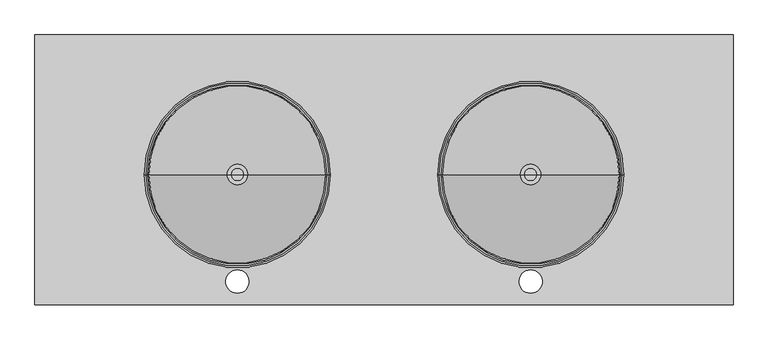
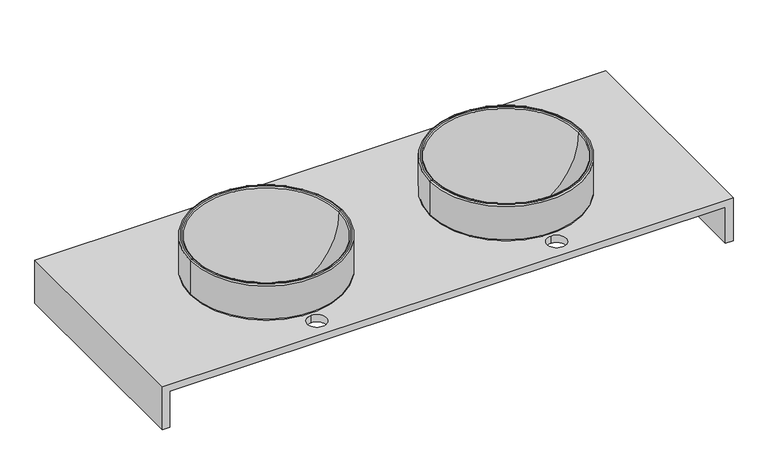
"""IFC4 building model written with IfcOpenShell, lengths in millimetres: flow terminal geometry, CUBIERTA BAÑO : CUBIERTA BAÑO 150CM."""

from ifc_helpers import new_model, si_unit, point, frame, origin, place, context, project, spatial, polyline, circle_curve, ellipse_curve, trimmed, source, transform, mapped, element, save
from ifc_brep_helpers import plane_surface, cylinder_surface, revolved_surface, advanced_brep


def flow_terminal_ff75b144(model_context):
    return source(origin(), model_context, "Body", "AdvancedBrep", [
        advanced_brep(
        [(559.7003264, 280.0, 755.0254698), (554.6748566, 280.0, 750.0), (164.7257963, 280.0, 750.0), (159.7003264, 280.0, 755.0254698), (559.7003264, 280.0, 847.1369003), (159.7003264, 280.0, 847.1369003), (556.5666099, 280.0, 850.2706168), (162.834043, 280.0, 850.2706168), (552.8264261, 280.0, 850.2706168), (166.5742268, 280.0, 850.2706168), (549.9406449, 280.0, 847.3848356), (169.460008, 280.0, 847.3848356), (376.6370457, 280.0, 659.6971154), (342.7636072, 280.0, 659.6971154), (376.6370457, 280.0, 649.6794237), (342.7636072, 280.0, 649.6794237), (549.6748566, 280.0, 781.4886928), (169.7257963, 280.0, 781.4886928), (549.6748566, 280.0, 750.0), (169.7257963, 280.0, 750.0)],
        [
            (0, 1, circle_curve(frame((554.6748566, 280.0, 755.0254698), z_axis=(0.0, 1.0, 0.0), x_axis=(1.0, 0.0, 0.0)), 5.0254698)),
            (1, 2, circle_curve(frame((359.7003264, 280.0, 750.0), z_axis=(0.0, 0.0, 1.0), x_axis=(-1.0, 0.0, 0.0)), 194.9745302)),
            (2, 3, circle_curve(frame((164.7257963, 280.0, 755.0254698), z_axis=(0.0, 1.0, 0.0), x_axis=(-1.0, 0.0, 0.0)), 5.0254698)),
            (3, 0, circle_curve(frame((359.7003264, 280.0, 755.0254698), z_axis=(0.0, 0.0, -1.0), x_axis=(-1.0, 0.0, 0.0)), 200.0)),
            (2, 1, circle_curve(frame((359.7003264, 280.0, 750.0), z_axis=(0.0, 0.0, 1.0), x_axis=(-1.0, 0.0, 0.0)), 194.9745302)),
            (0, 3, circle_curve(frame((359.7003264, 280.0, 755.0254698), z_axis=(0.0, 0.0, -1.0), x_axis=(-1.0, 0.0, 0.0)), 200.0)),
            (4, 0),
            (3, 5),
            (5, 4, circle_curve(frame((359.7003264, 280.0, 847.1369003), z_axis=(0.0, 0.0, -1.0), x_axis=(-1.0, 0.0, 0.0)), 200.0)),
            (4, 5, circle_curve(frame((359.7003264, 280.0, 847.1369003), z_axis=(0.0, 0.0, -1.0), x_axis=(-1.0, 0.0, 0.0)), 200.0)),
            (6, 4, circle_curve(frame((556.5666099, 280.0, 847.1369003), z_axis=(0.0, 1.0, 0.0), x_axis=(1.0, 0.0, 0.0)), 3.1337165)),
            (5, 7, circle_curve(frame((162.834043, 280.0, 847.1369003), z_axis=(0.0, 1.0, 0.0), x_axis=(-1.0, 0.0, 0.0)), 3.1337165)),
            (7, 6, circle_curve(frame((359.7003264, 280.0, 850.2706168), z_axis=(0.0, 0.0, -1.0), x_axis=(-1.0, 0.0, 0.0)), 196.8662835)),
            (6, 7, circle_curve(frame((359.7003264, 280.0, 850.2706168), z_axis=(0.0, 0.0, -1.0), x_axis=(-1.0, 0.0, 0.0)), 196.8662835)),
            (8, 6),
            (7, 9),
            (9, 8, circle_curve(frame((359.7003264, 280.0, 850.2706168), z_axis=(0.0, 0.0, -1.0), x_axis=(-1.0, 0.0, 0.0)), 193.1260997)),
            (8, 9, circle_curve(frame((359.7003264, 280.0, 850.2706168), z_axis=(0.0, 0.0, -1.0), x_axis=(-1.0, 0.0, 0.0)), 193.1260997)),
            (10, 8, circle_curve(frame((552.8264261, 280.0, 847.3848356), z_axis=(0.0, 1.0, 0.0), x_axis=(1.0, 0.0, 0.0)), 2.8857812)),
            (9, 11, circle_curve(frame((166.5742268, 280.0, 847.3848356), z_axis=(0.0, 1.0, 0.0), x_axis=(-1.0, 0.0, 0.0)), 2.8857812)),
            (11, 10, circle_curve(frame((359.7003264, 280.0, 847.3848356), z_axis=(0.0, 0.0, -1.0), x_axis=(-1.0, 0.0, 0.0)), 190.2403184)),
            (10, 11, circle_curve(frame((359.7003264, 280.0, 847.3848356), z_axis=(0.0, 0.0, -1.0), x_axis=(-1.0, 0.0, 0.0)), 190.2403184)),
            (12, 10, circle_curve(frame((365.3724623, 280.0, 843.9531856), z_axis=(0.0, -1.0, 0.0), x_axis=(1.0, 0.0, 0.0)), 184.6000819)),
            (11, 13, circle_curve(frame((354.0281906, 280.0, 843.9531856), z_axis=(0.0, -1.0, 0.0), x_axis=(-1.0, 0.0, 0.0)), 184.6000819)),
            (13, 12, circle_curve(frame((359.7003264, 280.0, 659.6971154), z_axis=(0.0, 0.0, -1.0), x_axis=(-1.0, 0.0, 0.0)), 16.9367193)),
            (12, 13, circle_curve(frame((359.7003264, 280.0, 659.6971154), z_axis=(0.0, 0.0, -1.0), x_axis=(-1.0, 0.0, 0.0)), 16.9367193)),
            (14, 12),
            (13, 15),
            (15, 14, circle_curve(frame((359.7003264, 280.0, 649.6794237), z_axis=(0.0, 0.0, -1.0), x_axis=(-1.0, 0.0, 0.0)), 16.9367193)),
            (14, 15, circle_curve(frame((359.7003264, 280.0, 649.6794237), z_axis=(0.0, 0.0, -1.0), x_axis=(-1.0, 0.0, 0.0)), 16.9367193)),
            (16, 14, circle_curve(frame((365.3724623, 280.0, 843.9531856), z_axis=(0.0, 1.0, 0.0), x_axis=(1.0, 0.0, 0.0)), 194.6000653)),
            (15, 17, circle_curve(frame((354.0281906, 280.0, 843.9531856), z_axis=(0.0, 1.0, 0.0), x_axis=(-1.0, 0.0, 0.0)), 194.6000653)),
            (17, 16, circle_curve(frame((359.7003264, 280.0, 781.4886928), z_axis=(0.0, 0.0, -1.0), x_axis=(-1.0, 0.0, 0.0)), 189.9745302)),
            (16, 17, circle_curve(frame((359.7003264, 280.0, 781.4886928), z_axis=(0.0, 0.0, -1.0), x_axis=(-1.0, 0.0, 0.0)), 189.9745302)),
            (18, 16),
            (17, 19),
            (19, 18, circle_curve(frame((359.7003264, 280.0, 750.0), z_axis=(0.0, 0.0, -1.0), x_axis=(-1.0, 0.0, 0.0)), 189.9745302)),
            (18, 19, circle_curve(frame((359.7003264, 280.0, 750.0), z_axis=(0.0, 0.0, -1.0), x_axis=(-1.0, 0.0, 0.0)), 189.9745302)),
            (1, 18),
            (19, 2),
        ],
        [
            revolved_surface(trimmed(ellipse_curve(frame((164.7257963, 280.0, 755.0254698), z_axis=(0.0, 1.0, 0.0), x_axis=(-1.0, 0.0, 0.0)), 5.0254698, 5.0254698), [point((164.7257963, 280.0, 750.0))], [point((159.7003264, 280.0, 755.0254698))], True, "CARTESIAN"), (359.7003264, 280.0, 700.0), (0.0, 0.0, 1.0)),
            cylinder_surface(frame((359.7003264, 280.0, 700.0), z_axis=(0.0, 0.0, 1.0), x_axis=(-1.0, 0.0, 0.0)), 200.0),
            revolved_surface(trimmed(ellipse_curve(frame((162.834043, 280.0, 847.1369003), z_axis=(0.0, 1.0, 0.0), x_axis=(-1.0, 0.0, 0.0)), 3.1337165, 3.1337165), [point((159.7003264, 280.0, 847.1369003))], [point((162.834043, 280.0, 850.2706168))], True, "CARTESIAN"), (359.7003264, 280.0, 700.0), (0.0, 0.0, 1.0)),
            plane_surface(frame((359.7003264, 280.0, 850.2706168), z_axis=(0.0, 0.0, 1.0), x_axis=(-1.0, 0.0, 0.0))),
            revolved_surface(trimmed(ellipse_curve(frame((166.5742268, 280.0, 847.3848356), z_axis=(0.0, 1.0, 0.0), x_axis=(-1.0, 0.0, 0.0)), 2.8857812, 2.8857812), [point((166.5742268, 280.0, 850.2706168))], [point((169.460008, 280.0, 847.3848356))], True, "CARTESIAN"), (359.7003264, 280.0, 700.0), (0.0, 0.0, 1.0)),
            revolved_surface(trimmed(ellipse_curve(frame((354.0281906, 280.0, 843.9531856), z_axis=(0.0, -1.0, 0.0), x_axis=(-1.0, 0.0, 0.0)), 184.6000819, 184.6000819), [point((169.460008, 280.0, 847.3848356))], [point((342.7636072, 280.0, 659.6971154))], True, "CARTESIAN"), (359.7003264, 280.0, 700.0), (0.0, 0.0, 1.0)),
            revolved_surface(polyline([(342.7636071, 280.0, 659.6971154), (342.7636071, 280.0, 649.6794237)]), (359.7003264, 280.0, 700.0), (0.0, 0.0, 1.0)),
            revolved_surface(trimmed(ellipse_curve(frame((354.0281906, 280.0, 843.9531856), z_axis=(0.0, 1.0, 0.0), x_axis=(-1.0, 0.0, 0.0)), 194.6000653, 194.6000653), [point((342.7636072, 280.0, 649.6794237))], [point((169.7257963, 280.0, 781.4886928))], True, "CARTESIAN"), (359.7003264, 280.0, 700.0), (0.0, 0.0, 1.0)),
            revolved_surface(polyline([(169.7257962, 280.0, 781.4886928), (169.7257962, 280.0, 750.0)]), (359.7003264, 280.0, 700.0), (0.0, 0.0, 1.0)),
            plane_surface(frame((359.7003264, 280.0, 750.0), z_axis=(0.0, 0.0, -1.0), x_axis=(-1.0, 0.0, 0.0))),
        ],
        [
            (0, [[1, 2, 3, 4]]),
            (0, [[-3, 5, -1, 6]]),
            (1, [[7, -4, 8, 9]]),
            (1, [[-8, -6, -7, 10]]),
            (2, [[11, -9, 12, 13]]),
            (2, [[-12, -10, -11, 14]]),
            (3, [[15, -13, 16, 17]]),
            (3, [[-16, -14, -15, 18]]),
            (4, [[19, -17, 20, 21]]),
            (4, [[-20, -18, -19, 22]]),
            (5, [[23, -21, 24, 25]]),
            (5, [[-24, -22, -23, 26]]),
            (6, [[27, -25, 28, 29]]),
            (6, [[-28, -26, -27, 30]]),
            (7, [[31, -29, 32, 33]]),
            (7, [[-32, -30, -31, 34]]),
            (8, [[35, -33, 36, 37]]),
            (8, [[-36, -34, -35, 38]]),
            (9, [[39, -37, 40, -2]]),
            (9, [[-40, -38, -39, -5]]),
        ],
    ),
        advanced_brep(
        [(373.4382327, 280.0, 661.875), (381.7003264, 280.0, 661.875), (337.7003264, 280.0, 661.875), (345.9624201, 280.0, 661.875), (373.4382327, 280.0, 643.7247134), (345.9624201, 280.0, 643.7247134), (359.7003264, 280.0, 643.7247134), (376.7003264, 280.0, 640.0), (359.7003264, 280.0, 640.0), (342.7003264, 280.0, 640.0), (376.7003264, 280.0, 660.339751), (342.7003264, 280.0, 660.339751), (381.7003264, 280.0, 660.339751), (337.7003264, 280.0, 660.339751)],
        [
            (0, 1),
            (1, 2, circle_curve(frame((359.7003264, 280.0, 661.875), z_axis=(0.0, 0.0, 1.0), x_axis=(-1.0, 0.0, 0.0)), 22.0)),
            (2, 3),
            (3, 0, circle_curve(frame((359.7003264, 280.0, 661.875), z_axis=(0.0, 0.0, -1.0), x_axis=(-1.0, 0.0, 0.0)), 13.7379063)),
            (2, 1, circle_curve(frame((359.7003264, 280.0, 661.875), z_axis=(0.0, 0.0, 1.0), x_axis=(-1.0, 0.0, 0.0)), 22.0)),
            (0, 3, circle_curve(frame((359.7003264, 280.0, 661.875), z_axis=(0.0, 0.0, -1.0), x_axis=(-1.0, 0.0, 0.0)), 13.7379063)),
            (4, 0),
            (3, 5),
            (5, 4, circle_curve(frame((359.7003264, 280.0, 643.7247134), z_axis=(0.0, 0.0, -1.0), x_axis=(-1.0, 0.0, 0.0)), 13.7379063)),
            (4, 5, circle_curve(frame((359.7003264, 280.0, 643.7247134), z_axis=(0.0, 0.0, -1.0), x_axis=(-1.0, 0.0, 0.0)), 13.7379063)),
            (6, 4),
            (5, 6),
            (7, 8),
            (8, 9),
            (9, 7, circle_curve(frame((359.7003264, 280.0, 640.0), z_axis=(0.0, 0.0, -1.0), x_axis=(-1.0, 0.0, 0.0)), 17.0)),
            (7, 9, circle_curve(frame((359.7003264, 280.0, 640.0), z_axis=(0.0, 0.0, -1.0), x_axis=(-1.0, 0.0, 0.0)), 17.0)),
            (10, 7),
            (9, 11),
            (11, 10, circle_curve(frame((359.7003264, 280.0, 660.339751), z_axis=(0.0, 0.0, -1.0), x_axis=(-1.0, 0.0, 0.0)), 17.0)),
            (10, 11, circle_curve(frame((359.7003264, 280.0, 660.339751), z_axis=(0.0, 0.0, -1.0), x_axis=(-1.0, 0.0, 0.0)), 17.0)),
            (12, 10),
            (11, 13),
            (13, 12, circle_curve(frame((359.7003264, 280.0, 660.339751), z_axis=(0.0, 0.0, -1.0), x_axis=(-1.0, 0.0, 0.0)), 22.0)),
            (12, 13, circle_curve(frame((359.7003264, 280.0, 660.339751), z_axis=(0.0, 0.0, -1.0), x_axis=(-1.0, 0.0, 0.0)), 22.0)),
            (1, 12),
            (13, 2),
        ],
        [
            plane_surface(frame((359.7003264, 280.0, 661.875), z_axis=(0.0, 0.0, 1.0), x_axis=(-1.0, 0.0, 0.0))),
            revolved_surface(polyline([(345.9624201, 280.0, 661.875), (345.9624201, 280.0, 643.7247134)]), (359.7003264, 280.0, 639.8833255), (0.0, 0.0, 1.0)),
            plane_surface(frame((359.7003264, 280.0, 643.7247134), z_axis=(0.0, 0.0, 1.0), x_axis=(-1.0, 0.0, 0.0))),
            plane_surface(frame((359.7003264, 280.0, 640.0), z_axis=(0.0, 0.0, -1.0), x_axis=(-1.0, 0.0, 0.0))),
            cylinder_surface(frame((359.7003264, 280.0, 639.8833255), z_axis=(0.0, 0.0, 1.0), x_axis=(-1.0, 0.0, 0.0)), 17.0),
            plane_surface(frame((359.7003264, 280.0, 660.339751), z_axis=(0.0, 0.0, -1.0), x_axis=(-1.0, 0.0, 0.0))),
            cylinder_surface(frame((359.7003264, 280.0, 639.8833255), z_axis=(0.0, 0.0, 1.0), x_axis=(-1.0, 0.0, 0.0)), 22.0),
        ],
        [
            (0, [[1, 2, 3, 4]]),
            (0, [[-3, 5, -1, 6]]),
            (1, [[7, -4, 8, 9]]),
            (1, [[-8, -6, -7, 10]]),
            (2, [[11, -9, 12]]),
            (2, [[-12, -10, -11]]),
            (3, [[13, 14, 15]]),
            (3, [[-14, -13, 16]]),
            (4, [[17, -15, 18, 19]]),
            (4, [[-18, -16, -17, 20]]),
            (5, [[21, -19, 22, 23]]),
            (5, [[-22, -20, -21, 24]]),
            (6, [[25, -23, 26, -2]]),
            (6, [[-26, -24, -25, -5]]),
        ],
    ),
        advanced_brep(
        [(-70.2996736, 280.0, 755.0254698), (-75.3251434, 280.0, 750.0), (-465.2742037, 280.0, 750.0), (-470.2996736, 280.0, 755.0254698), (-70.2996736, 280.0, 847.1369003), (-470.2996736, 280.0, 847.1369003), (-73.4333901, 280.0, 850.2706168), (-467.165957, 280.0, 850.2706168), (-77.1735739, 280.0, 850.2706168), (-463.4257732, 280.0, 850.2706168), (-80.0593551, 280.0, 847.3848356), (-460.539992, 280.0, 847.3848356), (-253.3629543, 280.0, 659.6971154), (-287.2363928, 280.0, 659.6971154), (-253.3629543, 280.0, 649.6794237), (-287.2363928, 280.0, 649.6794237), (-80.3251434, 280.0, 781.4886928), (-460.2742037, 280.0, 781.4886928), (-80.3251434, 280.0, 750.0), (-460.2742037, 280.0, 750.0)],
        [
            (0, 1, circle_curve(frame((-75.3251434, 280.0, 755.0254698), z_axis=(0.0, 1.0, 0.0), x_axis=(1.0, 0.0, 0.0)), 5.0254698)),
            (1, 2, circle_curve(frame((-270.2996736, 280.0, 750.0), z_axis=(0.0, 0.0, 1.0), x_axis=(-1.0, 0.0, 0.0)), 194.9745302)),
            (2, 3, circle_curve(frame((-465.2742037, 280.0, 755.0254698), z_axis=(0.0, 1.0, 0.0), x_axis=(-1.0, 0.0, 0.0)), 5.0254698)),
            (3, 0, circle_curve(frame((-270.2996736, 280.0, 755.0254698), z_axis=(0.0, 0.0, -1.0), x_axis=(-1.0, 0.0, 0.0)), 200.0)),
            (2, 1, circle_curve(frame((-270.2996736, 280.0, 750.0), z_axis=(0.0, 0.0, 1.0), x_axis=(-1.0, 0.0, 0.0)), 194.9745302)),
            (0, 3, circle_curve(frame((-270.2996736, 280.0, 755.0254698), z_axis=(0.0, 0.0, -1.0), x_axis=(-1.0, 0.0, 0.0)), 200.0)),
            (4, 0),
            (3, 5),
            (5, 4, circle_curve(frame((-270.2996736, 280.0, 847.1369003), z_axis=(0.0, 0.0, -1.0), x_axis=(-1.0, 0.0, 0.0)), 200.0)),
            (4, 5, circle_curve(frame((-270.2996736, 280.0, 847.1369003), z_axis=(0.0, 0.0, -1.0), x_axis=(-1.0, 0.0, 0.0)), 200.0)),
            (6, 4, circle_curve(frame((-73.4333901, 280.0, 847.1369003), z_axis=(0.0, 1.0, 0.0), x_axis=(1.0, 0.0, 0.0)), 3.1337165)),
            (5, 7, circle_curve(frame((-467.165957, 280.0, 847.1369003), z_axis=(0.0, 1.0, 0.0), x_axis=(-1.0, 0.0, 0.0)), 3.1337165)),
            (7, 6, circle_curve(frame((-270.2996736, 280.0, 850.2706168), z_axis=(0.0, 0.0, -1.0), x_axis=(-1.0, 0.0, 0.0)), 196.8662835)),
            (6, 7, circle_curve(frame((-270.2996736, 280.0, 850.2706168), z_axis=(0.0, 0.0, -1.0), x_axis=(-1.0, 0.0, 0.0)), 196.8662835)),
            (8, 6),
            (7, 9),
            (9, 8, circle_curve(frame((-270.2996736, 280.0, 850.2706168), z_axis=(0.0, 0.0, -1.0), x_axis=(-1.0, 0.0, 0.0)), 193.1260997)),
            (8, 9, circle_curve(frame((-270.2996736, 280.0, 850.2706168), z_axis=(0.0, 0.0, -1.0), x_axis=(-1.0, 0.0, 0.0)), 193.1260997)),
            (10, 8, circle_curve(frame((-77.1735739, 280.0, 847.3848356), z_axis=(0.0, 1.0, 0.0), x_axis=(1.0, 0.0, 0.0)), 2.8857812)),
            (9, 11, circle_curve(frame((-463.4257732, 280.0, 847.3848356), z_axis=(0.0, 1.0, 0.0), x_axis=(-1.0, 0.0, 0.0)), 2.8857812)),
            (11, 10, circle_curve(frame((-270.2996736, 280.0, 847.3848356), z_axis=(0.0, 0.0, -1.0), x_axis=(-1.0, 0.0, 0.0)), 190.2403184)),
            (10, 11, circle_curve(frame((-270.2996736, 280.0, 847.3848356), z_axis=(0.0, 0.0, -1.0), x_axis=(-1.0, 0.0, 0.0)), 190.2403184)),
            (12, 10, circle_curve(frame((-264.6275377, 280.0, 843.9531856), z_axis=(0.0, -1.0, 0.0), x_axis=(1.0, 0.0, 0.0)), 184.6000819)),
            (11, 13, circle_curve(frame((-275.9718094, 280.0, 843.9531856), z_axis=(0.0, -1.0, 0.0), x_axis=(-1.0, 0.0, 0.0)), 184.6000819)),
            (13, 12, circle_curve(frame((-270.2996736, 280.0, 659.6971154), z_axis=(0.0, 0.0, -1.0), x_axis=(-1.0, 0.0, 0.0)), 16.9367193)),
            (12, 13, circle_curve(frame((-270.2996736, 280.0, 659.6971154), z_axis=(0.0, 0.0, -1.0), x_axis=(-1.0, 0.0, 0.0)), 16.9367193)),
            (14, 12),
            (13, 15),
            (15, 14, circle_curve(frame((-270.2996736, 280.0, 649.6794237), z_axis=(0.0, 0.0, -1.0), x_axis=(-1.0, 0.0, 0.0)), 16.9367193)),
            (14, 15, circle_curve(frame((-270.2996736, 280.0, 649.6794237), z_axis=(0.0, 0.0, -1.0), x_axis=(-1.0, 0.0, 0.0)), 16.9367193)),
            (16, 14, circle_curve(frame((-264.6275377, 280.0, 843.9531856), z_axis=(0.0, 1.0, 0.0), x_axis=(1.0, 0.0, 0.0)), 194.6000653)),
            (15, 17, circle_curve(frame((-275.9718094, 280.0, 843.9531856), z_axis=(0.0, 1.0, 0.0), x_axis=(-1.0, 0.0, 0.0)), 194.6000653)),
            (17, 16, circle_curve(frame((-270.2996736, 280.0, 781.4886928), z_axis=(0.0, 0.0, -1.0), x_axis=(-1.0, 0.0, 0.0)), 189.9745302)),
            (16, 17, circle_curve(frame((-270.2996736, 280.0, 781.4886928), z_axis=(0.0, 0.0, -1.0), x_axis=(-1.0, 0.0, 0.0)), 189.9745302)),
            (18, 16),
            (17, 19),
            (19, 18, circle_curve(frame((-270.2996736, 280.0, 750.0), z_axis=(0.0, 0.0, -1.0), x_axis=(-1.0, 0.0, 0.0)), 189.9745302)),
            (18, 19, circle_curve(frame((-270.2996736, 280.0, 750.0), z_axis=(0.0, 0.0, -1.0), x_axis=(-1.0, 0.0, 0.0)), 189.9745302)),
            (1, 18),
            (19, 2),
        ],
        [
            revolved_surface(trimmed(ellipse_curve(frame((-465.2742037, 280.0, 755.0254698), z_axis=(0.0, 1.0, 0.0), x_axis=(-1.0, 0.0, 0.0)), 5.0254698, 5.0254698), [point((-465.2742037, 280.0, 750.0))], [point((-470.2996736, 280.0, 755.0254698))], True, "CARTESIAN"), (-270.2996736, 280.0, 700.0), (0.0, 0.0, 1.0)),
            cylinder_surface(frame((-270.2996736, 280.0, 700.0), z_axis=(0.0, 0.0, 1.0), x_axis=(-1.0, 0.0, 0.0)), 200.0),
            revolved_surface(trimmed(ellipse_curve(frame((-467.165957, 280.0, 847.1369003), z_axis=(0.0, 1.0, 0.0), x_axis=(-1.0, 0.0, 0.0)), 3.1337165, 3.1337165), [point((-470.2996736, 280.0, 847.1369003))], [point((-467.165957, 280.0, 850.2706168))], True, "CARTESIAN"), (-270.2996736, 280.0, 700.0), (0.0, 0.0, 1.0)),
            plane_surface(frame((-270.2996736, 280.0, 850.2706168), z_axis=(0.0, 0.0, 1.0), x_axis=(-1.0, 0.0, 0.0))),
            revolved_surface(trimmed(ellipse_curve(frame((-463.4257732, 280.0, 847.3848356), z_axis=(0.0, 1.0, 0.0), x_axis=(-1.0, 0.0, 0.0)), 2.8857812, 2.8857812), [point((-463.4257732, 280.0, 850.2706168))], [point((-460.539992, 280.0, 847.3848356))], True, "CARTESIAN"), (-270.2996736, 280.0, 700.0), (0.0, 0.0, 1.0)),
            revolved_surface(trimmed(ellipse_curve(frame((-275.9718094, 280.0, 843.9531856), z_axis=(0.0, -1.0, 0.0), x_axis=(-1.0, 0.0, 0.0)), 184.6000819, 184.6000819), [point((-460.539992, 280.0, 847.3848356))], [point((-287.2363928, 280.0, 659.6971154))], True, "CARTESIAN"), (-270.2996736, 280.0, 700.0), (0.0, 0.0, 1.0)),
            revolved_surface(polyline([(-287.2363929, 280.0, 659.6971154), (-287.2363929, 280.0, 649.6794237)]), (-270.2996736, 280.0, 700.0), (0.0, 0.0, 1.0)),
            revolved_surface(trimmed(ellipse_curve(frame((-275.9718094, 280.0, 843.9531856), z_axis=(0.0, 1.0, 0.0), x_axis=(-1.0, 0.0, 0.0)), 194.6000653, 194.6000653), [point((-287.2363928, 280.0, 649.6794237))], [point((-460.2742037, 280.0, 781.4886928))], True, "CARTESIAN"), (-270.2996736, 280.0, 700.0), (0.0, 0.0, 1.0)),
            revolved_surface(polyline([(-460.2742038, 280.0, 781.4886928), (-460.2742038, 280.0, 750.0)]), (-270.2996736, 280.0, 700.0), (0.0, 0.0, 1.0)),
            plane_surface(frame((-270.2996736, 280.0, 750.0), z_axis=(0.0, 0.0, -1.0), x_axis=(-1.0, 0.0, 0.0))),
        ],
        [
            (0, [[1, 2, 3, 4]]),
            (0, [[-3, 5, -1, 6]]),
            (1, [[7, -4, 8, 9]]),
            (1, [[-8, -6, -7, 10]]),
            (2, [[11, -9, 12, 13]]),
            (2, [[-12, -10, -11, 14]]),
            (3, [[15, -13, 16, 17]]),
            (3, [[-16, -14, -15, 18]]),
            (4, [[19, -17, 20, 21]]),
            (4, [[-20, -18, -19, 22]]),
            (5, [[23, -21, 24, 25]]),
            (5, [[-24, -22, -23, 26]]),
            (6, [[27, -25, 28, 29]]),
            (6, [[-28, -26, -27, 30]]),
            (7, [[31, -29, 32, 33]]),
            (7, [[-32, -30, -31, 34]]),
            (8, [[35, -33, 36, 37]]),
            (8, [[-36, -34, -35, 38]]),
            (9, [[39, -37, 40, -2]]),
            (9, [[-40, -38, -39, -5]]),
        ],
    ),
        advanced_brep(
        [(-256.5617673, 280.0, 661.875), (-248.2996736, 280.0, 661.875), (-292.2996736, 280.0, 661.875), (-284.0375799, 280.0, 661.875), (-256.5617673, 280.0, 643.7247134), (-284.0375799, 280.0, 643.7247134), (-270.2996736, 280.0, 643.7247134), (-253.2996736, 280.0, 640.0), (-270.2996736, 280.0, 640.0), (-287.2996736, 280.0, 640.0), (-253.2996736, 280.0, 660.339751), (-287.2996736, 280.0, 660.339751), (-248.2996736, 280.0, 660.339751), (-292.2996736, 280.0, 660.339751)],
        [
            (0, 1),
            (1, 2, circle_curve(frame((-270.2996736, 280.0, 661.875), z_axis=(0.0, 0.0, 1.0), x_axis=(-1.0, 0.0, 0.0)), 22.0)),
            (2, 3),
            (3, 0, circle_curve(frame((-270.2996736, 280.0, 661.875), z_axis=(0.0, 0.0, -1.0), x_axis=(-1.0, 0.0, 0.0)), 13.7379063)),
            (2, 1, circle_curve(frame((-270.2996736, 280.0, 661.875), z_axis=(0.0, 0.0, 1.0), x_axis=(-1.0, 0.0, 0.0)), 22.0)),
            (0, 3, circle_curve(frame((-270.2996736, 280.0, 661.875), z_axis=(0.0, 0.0, -1.0), x_axis=(-1.0, 0.0, 0.0)), 13.7379063)),
            (4, 0),
            (3, 5),
            (5, 4, circle_curve(frame((-270.2996736, 280.0, 643.7247134), z_axis=(0.0, 0.0, -1.0), x_axis=(-1.0, 0.0, 0.0)), 13.7379063)),
            (4, 5, circle_curve(frame((-270.2996736, 280.0, 643.7247134), z_axis=(0.0, 0.0, -1.0), x_axis=(-1.0, 0.0, 0.0)), 13.7379063)),
            (6, 4),
            (5, 6),
            (7, 8),
            (8, 9),
            (9, 7, circle_curve(frame((-270.2996736, 280.0, 640.0), z_axis=(0.0, 0.0, -1.0), x_axis=(-1.0, 0.0, 0.0)), 17.0)),
            (7, 9, circle_curve(frame((-270.2996736, 280.0, 640.0), z_axis=(0.0, 0.0, -1.0), x_axis=(-1.0, 0.0, 0.0)), 17.0)),
            (10, 7),
            (9, 11),
            (11, 10, circle_curve(frame((-270.2996736, 280.0, 660.339751), z_axis=(0.0, 0.0, -1.0), x_axis=(-1.0, 0.0, 0.0)), 17.0)),
            (10, 11, circle_curve(frame((-270.2996736, 280.0, 660.339751), z_axis=(0.0, 0.0, -1.0), x_axis=(-1.0, 0.0, 0.0)), 17.0)),
            (12, 10),
            (11, 13),
            (13, 12, circle_curve(frame((-270.2996736, 280.0, 660.339751), z_axis=(0.0, 0.0, -1.0), x_axis=(-1.0, 0.0, 0.0)), 22.0)),
            (12, 13, circle_curve(frame((-270.2996736, 280.0, 660.339751), z_axis=(0.0, 0.0, -1.0), x_axis=(-1.0, 0.0, 0.0)), 22.0)),
            (1, 12),
            (13, 2),
        ],
        [
            plane_surface(frame((-270.2996736, 280.0, 661.875), z_axis=(0.0, 0.0, 1.0), x_axis=(-1.0, 0.0, 0.0))),
            revolved_surface(polyline([(-284.0375799, 280.0, 661.875), (-284.0375799, 280.0, 643.7247134)]), (-270.2996736, 280.0, 639.8833255), (0.0, 0.0, 1.0)),
            plane_surface(frame((-270.2996736, 280.0, 643.7247134), z_axis=(0.0, 0.0, 1.0), x_axis=(-1.0, 0.0, 0.0))),
            plane_surface(frame((-270.2996736, 280.0, 640.0), z_axis=(0.0, 0.0, -1.0), x_axis=(-1.0, 0.0, 0.0))),
            cylinder_surface(frame((-270.2996736, 280.0, 639.8833255), z_axis=(0.0, 0.0, 1.0), x_axis=(-1.0, 0.0, 0.0)), 17.0),
            plane_surface(frame((-270.2996736, 280.0, 660.339751), z_axis=(0.0, 0.0, -1.0), x_axis=(-1.0, 0.0, 0.0))),
            cylinder_surface(frame((-270.2996736, 280.0, 639.8833255), z_axis=(0.0, 0.0, 1.0), x_axis=(-1.0, 0.0, 0.0)), 22.0),
        ],
        [
            (0, [[1, 2, 3, 4]]),
            (0, [[-3, 5, -1, 6]]),
            (1, [[7, -4, 8, 9]]),
            (1, [[-8, -6, -7, 10]]),
            (2, [[11, -9, 12]]),
            (2, [[-12, -10, -11]]),
            (3, [[13, 14, 15]]),
            (3, [[-14, -13, 16]]),
            (4, [[17, -15, 18, 19]]),
            (4, [[-18, -16, -17, 20]]),
            (5, [[21, -19, 22, 23]]),
            (5, [[-22, -20, -21, 24]]),
            (6, [[25, -23, 26, -2]]),
            (6, [[-26, -24, -25, -5]]),
        ],
    ),
        advanced_brep(
        [(-685.2996736, 0.0, 730.2844037), (-685.2996736, 560.0, 730.2844037), (774.7003264, 560.0, 730.2844037), (774.7003264, 0.0, 730.2844037), (-270.2996736, 25.0, 730.2844037), (-270.2996736, 75.0, 730.2844037), (-270.2996736, 100.0, 730.2844037), (-270.2996736, 460.0, 730.2844037), (359.7003264, 25.0, 730.2844037), (359.7003264, 75.0, 730.2844037), (359.7003264, 100.0, 730.2844037), (359.7003264, 460.0, 730.2844037), (794.7003264, 0.0, 750.0), (794.7003264, 580.0, 750.0), (-705.2996736, 580.0, 750.0), (-705.2996736, 0.0, 750.0), (-270.2996736, 25.0, 750.0), (-270.2996736, 75.0, 750.0), (-270.2996736, 100.0, 750.0), (-270.2996736, 460.0, 750.0), (359.7003264, 25.0, 750.0), (359.7003264, 75.0, 750.0), (359.7003264, 100.0, 750.0), (359.7003264, 460.0, 750.0), (-705.2996736, 0.0, 630.0), (-685.2996736, 0.0, 630.0), (774.7003264, 0.0, 630.0), (794.7003264, 0.0, 630.0), (-705.2996736, 580.0, 630.0), (794.7003264, 580.0, 630.0), (774.7003264, 560.0, 630.0), (-685.2996736, 560.0, 630.0)],
        [
            (0, 1),
            (1, 2),
            (2, 3),
            (3, 0),
            (4, 5, circle_curve(frame((-270.2996736, 50.0, 730.2844037), z_axis=(0.0, 0.0, 1.0), x_axis=(0.0, 1.0, 0.0)), 25.0)),
            (5, 4, circle_curve(frame((-270.2996736, 50.0, 730.2844037), z_axis=(0.0, 0.0, 1.0), x_axis=(0.0, 1.0, 0.0)), 25.0)),
            (6, 7, circle_curve(frame((-270.2996736, 280.0, 730.2844037), z_axis=(0.0, 0.0, 1.0), x_axis=(0.0, 1.0, 0.0)), 180.0)),
            (7, 6, circle_curve(frame((-270.2996736, 280.0, 730.2844037), z_axis=(0.0, 0.0, 1.0), x_axis=(0.0, 1.0, 0.0)), 180.0)),
            (8, 9, circle_curve(frame((359.7003264, 50.0, 730.2844037), z_axis=(0.0, 0.0, 1.0), x_axis=(0.0, 1.0, 0.0)), 25.0)),
            (9, 8, circle_curve(frame((359.7003264, 50.0, 730.2844037), z_axis=(0.0, 0.0, 1.0), x_axis=(0.0, 1.0, 0.0)), 25.0)),
            (10, 11, circle_curve(frame((359.7003264, 280.0, 730.2844037), z_axis=(0.0, 0.0, 1.0), x_axis=(0.0, 1.0, 0.0)), 180.0)),
            (11, 10, circle_curve(frame((359.7003264, 280.0, 730.2844037), z_axis=(0.0, 0.0, 1.0), x_axis=(0.0, 1.0, 0.0)), 180.0)),
            (12, 13),
            (13, 14),
            (14, 15),
            (15, 12),
            (16, 17, circle_curve(frame((-270.2996736, 50.0, 750.0), z_axis=(0.0, 0.0, -1.0), x_axis=(0.0, 1.0, 0.0)), 25.0)),
            (17, 16, circle_curve(frame((-270.2996736, 50.0, 750.0), z_axis=(0.0, 0.0, -1.0), x_axis=(0.0, 1.0, 0.0)), 25.0)),
            (18, 19, circle_curve(frame((-270.2996736, 280.0, 750.0), z_axis=(0.0, 0.0, -1.0), x_axis=(0.0, 1.0, 0.0)), 180.0)),
            (19, 18, circle_curve(frame((-270.2996736, 280.0, 750.0), z_axis=(0.0, 0.0, -1.0), x_axis=(0.0, 1.0, 0.0)), 180.0)),
            (20, 21, circle_curve(frame((359.7003264, 50.0, 750.0), z_axis=(0.0, 0.0, -1.0), x_axis=(0.0, 1.0, 0.0)), 25.0)),
            (21, 20, circle_curve(frame((359.7003264, 50.0, 750.0), z_axis=(0.0, 0.0, -1.0), x_axis=(0.0, 1.0, 0.0)), 25.0)),
            (22, 23, circle_curve(frame((359.7003264, 280.0, 750.0), z_axis=(0.0, 0.0, -1.0), x_axis=(0.0, 1.0, 0.0)), 180.0)),
            (23, 22, circle_curve(frame((359.7003264, 280.0, 750.0), z_axis=(0.0, 0.0, -1.0), x_axis=(0.0, 1.0, 0.0)), 180.0)),
            (15, 24),
            (24, 25),
            (25, 0),
            (3, 26),
            (26, 27),
            (27, 12),
            (14, 28),
            (28, 24),
            (13, 29),
            (29, 28),
            (27, 29),
            (4, 16),
            (17, 5),
            (6, 18),
            (19, 7),
            (8, 20),
            (21, 9),
            (10, 22),
            (23, 11),
            (26, 30),
            (30, 31),
            (31, 25),
            (2, 30),
            (1, 31),
        ],
        [
            plane_surface(frame((-705.2996736, 0.0, 730.2844037), z_axis=(0.0, 0.0, -1.0), x_axis=(1.0, 0.0, 0.0))),
            plane_surface(frame((-705.2996736, 0.0, 750.0), z_axis=(0.0, 0.0, 1.0), x_axis=(-1.0, 0.0, 0.0))),
            plane_surface(frame((794.7003264, 0.0, 750.0), z_axis=(0.0, -1.0, 0.0), x_axis=(0.0, 0.0, -1.0))),
            plane_surface(frame((-705.2996736, 0.0, 750.0), z_axis=(-1.0, 0.0, 0.0), x_axis=(0.0, 0.0, -1.0))),
            plane_surface(frame((-705.2996736, 580.0, 750.0), z_axis=(0.0, 1.0, 0.0), x_axis=(0.0, 0.0, -1.0))),
            plane_surface(frame((794.7003264, 580.0, 750.0), z_axis=(1.0, 0.0, 0.0), x_axis=(0.0, 0.0, -1.0))),
            revolved_surface(polyline([(-270.2996736, 75.0, 730.2844037), (-270.2996736, 75.0, 750.0)]), (-270.2996736, 50.0, 750.0), (0.0, 0.0, -1.0)),
            revolved_surface(polyline([(-270.2996736, 460.0, 730.2844037), (-270.2996736, 460.0, 750.0)]), (-270.2996736, 280.0, 750.0), (0.0, 0.0, -1.0)),
            revolved_surface(polyline([(359.7003264, 75.0, 730.2844037), (359.7003264, 75.0, 750.0)]), (359.7003264, 50.0, 750.0), (0.0, 0.0, -1.0)),
            revolved_surface(polyline([(359.7003264, 460.0, 730.2844037), (359.7003264, 460.0, 750.0)]), (359.7003264, 280.0, 750.0), (0.0, 0.0, -1.0)),
            plane_surface(frame((-705.2996736, 580.0, 630.0), z_axis=(0.0, 0.0, -1.0), x_axis=(-1.0, 0.0, 0.0))),
            plane_surface(frame((774.7003264, 0.0, 730.2844037), z_axis=(-1.0, 0.0, 0.0), x_axis=(0.0, 0.0, -1.0))),
            plane_surface(frame((774.7003264, 560.0, 730.2844037), z_axis=(0.0, -1.0, 0.0), x_axis=(0.0, 0.0, -1.0))),
            plane_surface(frame((-685.2996736, 560.0, 730.2844037), z_axis=(1.0, 0.0, 0.0), x_axis=(0.0, 0.0, -1.0))),
        ],
        [
            (0, [[1, 2, 3, 4], [5, 6], [7, 8], [9, 10], [11, 12]]),
            (1, [[13, 14, 15, 16], [17, 18], [19, 20], [21, 22], [23, 24]]),
            (2, [[25, 26, 27, -4, 28, 29, 30, -16]]),
            (3, [[31, 32, -25, -15]]),
            (4, [[33, 34, -31, -14]]),
            (5, [[35, -33, -13, -30]]),
            (6, [[36, -18, 37, -5]]),
            (6, [[-37, -17, -36, -6]]),
            (7, [[38, -20, 39, -7]]),
            (7, [[-39, -19, -38, -8]]),
            (8, [[40, -22, 41, -9]]),
            (8, [[-41, -21, -40, -10]]),
            (9, [[42, -24, 43, -11]]),
            (9, [[-43, -23, -42, -12]]),
            (10, [[-34, -35, -29, 44, 45, 46, -26, -32]]),
            (11, [[-28, -3, 47, -44]]),
            (12, [[-47, -2, 48, -45]]),
            (13, [[-48, -1, -27, -46]]),
        ],
    ),
    ])


if __name__ == "__main__":
    model = new_model("IFC4")
    model_context = context("Model", 3, world=origin())
    ifc_project = project(units=[si_unit("LENGTHUNIT", "METRE", prefix="MILLI")], contexts=[model_context])
    site = spatial("IfcSite", under=ifc_project)
    building = spatial("IfcBuilding", under=site)
    placement = place(None, origin())
    flow_terminal_shape = flow_terminal_ff75b144(model_context)
    element("IfcFlowTerminal", 1, ObjectType="CUBIERTA BAÑO : CUBIERTA BAÑO 150CM", at=placement, inside=building, context=model_context, shape_type="MappedRepresentation", body=[
        mapped(flow_terminal_shape, transform((0.0, 0.0, 0.0), x_axis=(1.0, 0.0, 0.0), y_axis=(0.0, 1.0, 0.0), z_axis=(0.0, 0.0, 1.0))),
    ])
    save(model, "model.ifc")
